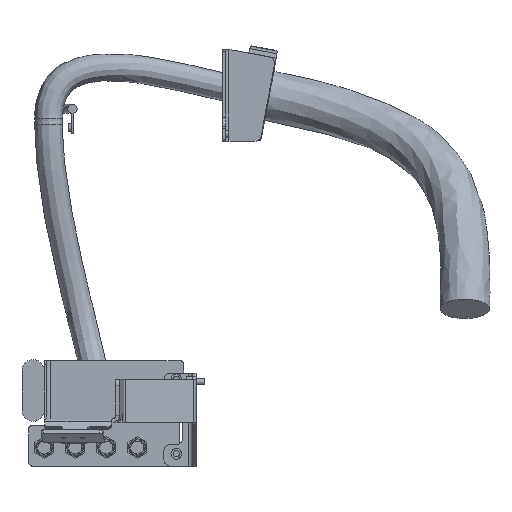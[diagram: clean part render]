
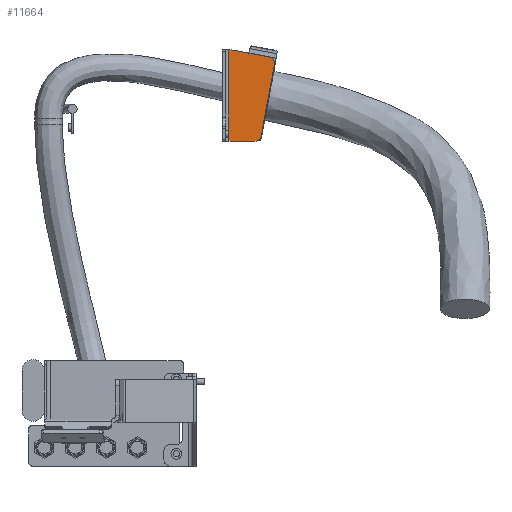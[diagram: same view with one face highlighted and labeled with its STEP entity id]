
A CAD part, left-side view. The second image highlights one B-rep face of the part: STEP entity #11664.
In plain terms, the highlighted planar face has unit normal (-1, 0, 0).
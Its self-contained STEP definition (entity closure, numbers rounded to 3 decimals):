
#394 = VERTEX_POINT ( 'NONE', #13331 ) ;
#512 = DIRECTION ( 'NONE',  ( -1., 0., 0. ) ) ;
#718 = CIRCLE ( 'NONE', #11074, 10. ) ;
#739 = LINE ( 'NONE', #3526, #16693 ) ;
#1159 = VECTOR ( 'NONE', #14534, 1000. ) ;
#1202 = DIRECTION ( 'NONE',  ( 0., 0., 1. ) ) ;
#1704 = DIRECTION ( 'NONE',  ( 0., 1., 0. ) ) ;
#1827 = CARTESIAN_POINT ( 'NONE',  ( 899., -203.54, 2113.978 ) ) ;
#2036 = VERTEX_POINT ( 'NONE', #12439 ) ;
#2099 = EDGE_CURVE ( 'NONE', #16774, #2718, #739, .T. ) ;
#2125 = AXIS2_PLACEMENT_3D ( 'NONE', #13268, #14392, #1704 ) ;
#2277 = EDGE_CURVE ( 'NONE', #394, #2036, #718, .T. ) ;
#2682 = CARTESIAN_POINT ( 'NONE',  ( 899., -140., 1988. ) ) ;
#2718 = VERTEX_POINT ( 'NONE', #5994 ) ;
#3483 = CIRCLE ( 'NONE', #6145, 10. ) ;
#3526 = CARTESIAN_POINT ( 'NONE',  ( 899., -135.168, 2136.901 ) ) ;
#4691 = DIRECTION ( 'NONE',  ( 0., 1., 0. ) ) ;
#4713 = CARTESIAN_POINT ( 'NONE',  ( 899., -215.035, 2121.074 ) ) ;
#5387 = DIRECTION ( 'NONE',  ( 0., 1., 0. ) ) ;
#5994 = CARTESIAN_POINT ( 'NONE',  ( 899., -205.373, 2123.808 ) ) ;
#6053 = EDGE_CURVE ( 'NONE', #14658, #2036, #17390, .T. ) ;
#6145 = AXIS2_PLACEMENT_3D ( 'NONE', #1827, #512, #4691 ) ;
#6451 = ORIENTED_EDGE ( 'NONE', *, *, #2277, .T. ) ;
#6496 = EDGE_CURVE ( 'NONE', #14658, #2718, #3483, .T. ) ;
#6528 = DIRECTION ( 'NONE',  ( 0., -1., 0. ) ) ;
#8187 = LINE ( 'NONE', #17822, #17702 ) ;
#8246 = DIRECTION ( 'NONE',  ( -1., 0., 0. ) ) ;
#8569 = ORIENTED_EDGE ( 'NONE', *, *, #6496, .T. ) ;
#9007 = FACE_OUTER_BOUND ( 'NONE', #14585, .T. ) ;
#9278 = CARTESIAN_POINT ( 'NONE',  ( 899., -140., 1988. ) ) ;
#9951 = ORIENTED_EDGE ( 'NONE', *, *, #14589, .F. ) ;
#10400 = CARTESIAN_POINT ( 'NONE',  ( 899., -213.37, 2112.144 ) ) ;
#11074 = AXIS2_PLACEMENT_3D ( 'NONE', #12228, #8246, #5387 ) ;
#11592 = ORIENTED_EDGE ( 'NONE', *, *, #15760, .T. ) ;
#11664 = ADVANCED_FACE ( 'NONE', ( #9007 ), #15780, .F. ) ;
#11722 = VERTEX_POINT ( 'NONE', #9278 ) ;
#12228 = CARTESIAN_POINT ( 'NONE',  ( 899., -181.91, 1998. ) ) ;
#12439 = CARTESIAN_POINT ( 'NONE',  ( 899., -191.741, 1996.167 ) ) ;
#13268 = CARTESIAN_POINT ( 'NONE',  ( 899., -135., 2136. ) ) ;
#13331 = CARTESIAN_POINT ( 'NONE',  ( 899., -181.91, 1988. ) ) ;
#14392 = DIRECTION ( 'NONE',  ( 1., 0., 0. ) ) ;
#14534 = DIRECTION ( 'NONE',  ( 0., 0.183, -0.983 ) ) ;
#14585 = EDGE_LOOP ( 'NONE', ( #11592, #6451, #14880, #8569, #16197, #9951 ) ) ;
#14589 = EDGE_CURVE ( 'NONE', #11722, #16774, #16656, .T. ) ;
#14658 = VERTEX_POINT ( 'NONE', #10400 ) ;
#14880 = ORIENTED_EDGE ( 'NONE', *, *, #6053, .F. ) ;
#15624 = VECTOR ( 'NONE', #1202, 1000. ) ;
#15760 = EDGE_CURVE ( 'NONE', #11722, #394, #8187, .T. ) ;
#15780 = PLANE ( 'NONE',  #2125 ) ;
#15864 = CARTESIAN_POINT ( 'NONE',  ( 899., -140., 2136. ) ) ;
#16197 = ORIENTED_EDGE ( 'NONE', *, *, #2099, .F. ) ;
#16656 = LINE ( 'NONE', #2682, #15624 ) ;
#16693 = VECTOR ( 'NONE', #17419, 1000. ) ;
#16774 = VERTEX_POINT ( 'NONE', #15864 ) ;
#17390 = LINE ( 'NONE', #4713, #1159 ) ;
#17419 = DIRECTION ( 'NONE',  ( 0., -0.983, -0.183 ) ) ;
#17702 = VECTOR ( 'NONE', #6528, 1000. ) ;
#17822 = CARTESIAN_POINT ( 'NONE',  ( 899., -135., 1988. ) ) ;
